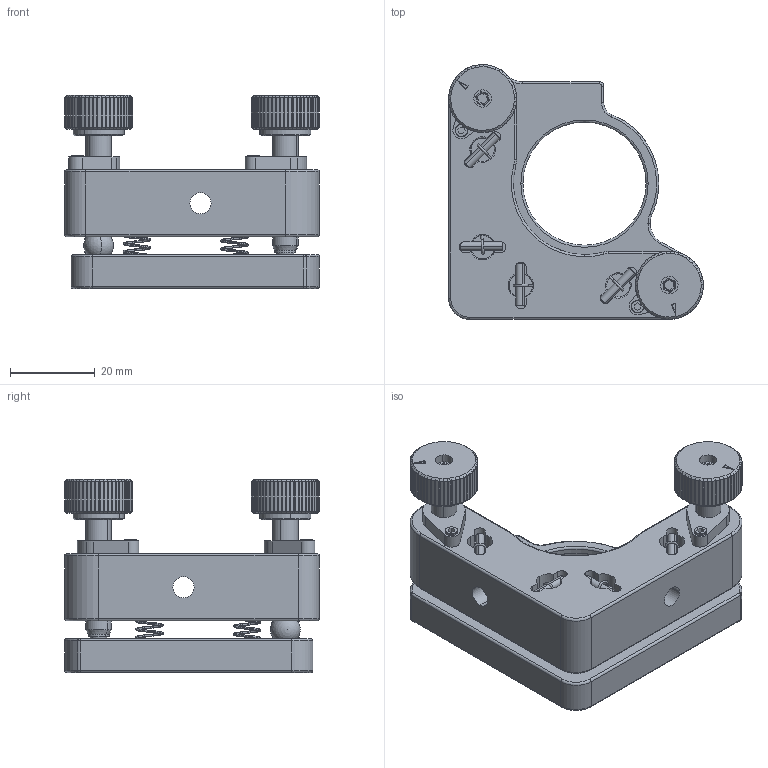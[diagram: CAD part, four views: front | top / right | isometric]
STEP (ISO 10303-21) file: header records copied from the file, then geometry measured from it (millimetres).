
FILE_DESCRIPTION (( 'STEP AP203' ), '1' );
FILE_NAME ('M-TMSO-1.2L-HOC.STEP', '2020-08-25T07:55:02', ( '匠星' ), ( '' ), 'SwSTEP 2.0', 'SolidWorks 2019', '' );
FILE_SCHEMA (( 'CONFIG_CONTROL_DESIGN' ));
Length unit declared in the file: millimetre
Products named in the file (1): M-TMSO-1.2L-HOC
Bounding box: 60 x 60 x 45.5 mm (x, y, z)
Surface area: 19686.6 mm2 (no closed solid volume)
Topology: 0 solids, 19 shells, 922 faces, 2394 edges, 1531 vertices
Faces by surface type: cylinder 410, plane 364, torus 70, cone 44, sphere 22, bspline 12
Entity records: 37824 total; most frequent: CARTESIAN_POINT 16014, ORIENTED_EDGE 4718, DIRECTION 4429, EDGE_CURVE 2365, AXIS2_PLACEMENT_3D 1773, VERTEX_POINT 1524, EDGE_LOOP 991, ADVANCED_FACE 922
